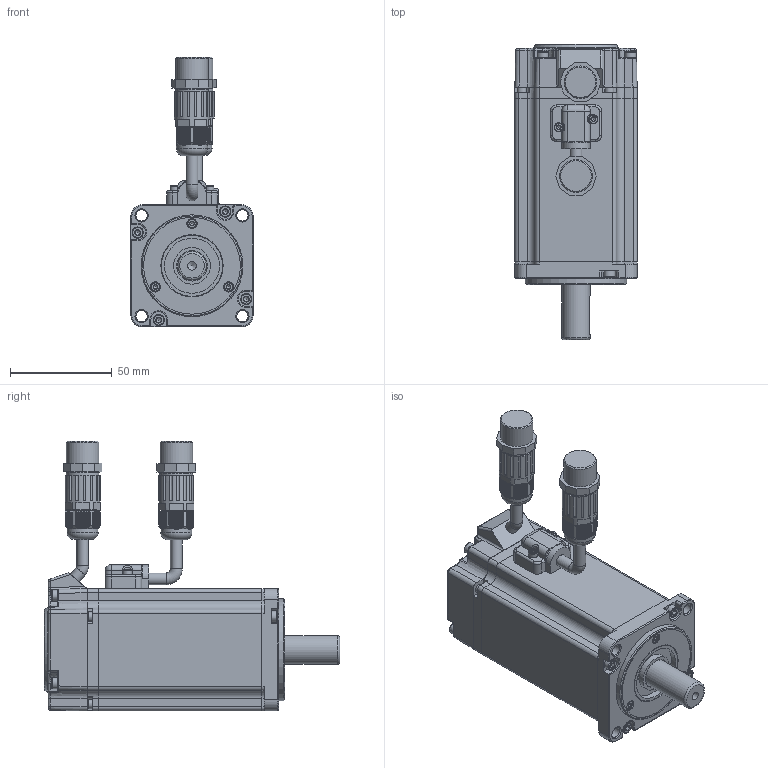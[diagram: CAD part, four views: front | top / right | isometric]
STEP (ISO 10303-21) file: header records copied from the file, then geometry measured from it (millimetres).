
FILE_DESCRIPTION(/* description */ (''),/* implementation_level */ '2;1');
FILE_NAME(/* name */ '60SY-M01930LCMS1.stp',/* time_stamp */ '2024-01-04T11:01:57+08:00',/* author */ (''),/* organization */ (''),/* preprocessor_version */ 'ST-DEVELOPER v18.1',/* originating_system */ 'SIEMENS PLM Software NX 2000',/* authorisation */ '');
FILE_SCHEMA (('AUTOMOTIVE_DESIGN { 1 0 10303 214 3 1 1 1 }'));
Products named in the file (1): 60SY-M00630S1
Bounding box: 60 x 145 x 132.49 mm (x, y, z)
Volume: 398662.4 mm3; surface area: 78832.1 mm2
Topology: 29 solids, 34 shells, 2150 faces, 5422 edges, 3365 vertices
Faces by surface type: plane 1433, cylinder 291, cone 157, sphere 144, torus 81, bspline 44
Full cylindrical faces by diameter (mm): 2.05 x3, 2.38 x9, 2.5 x6, 2.6 x4, 2.874 x8, 2.9 x3, 3.4 x4, 3.479 x4, 3.5 x4, 4.2 x1, 4.5 x9, 5 x3, 5.5 x12, 5.8 x5, 6 x1, 13 x2, 14 x1, 14.8 x1, 15 x1, 15.3 x2, 15.6 x2, 16 x2, 16.1 x2, 17.3 x2, 18 x1, 22.5 x1, 27 x1, 30 x2, 47.5 x2, 50 x1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
Entity records: 64099 total; most frequent: CARTESIAN_POINT 15830, ORIENTED_EDGE 10306, DIRECTION 9019, EDGE_CURVE 5153, VERTEX_POINT 3316, AXIS2_PLACEMENT_3D 3167, LINE 2685, VECTOR 2685
